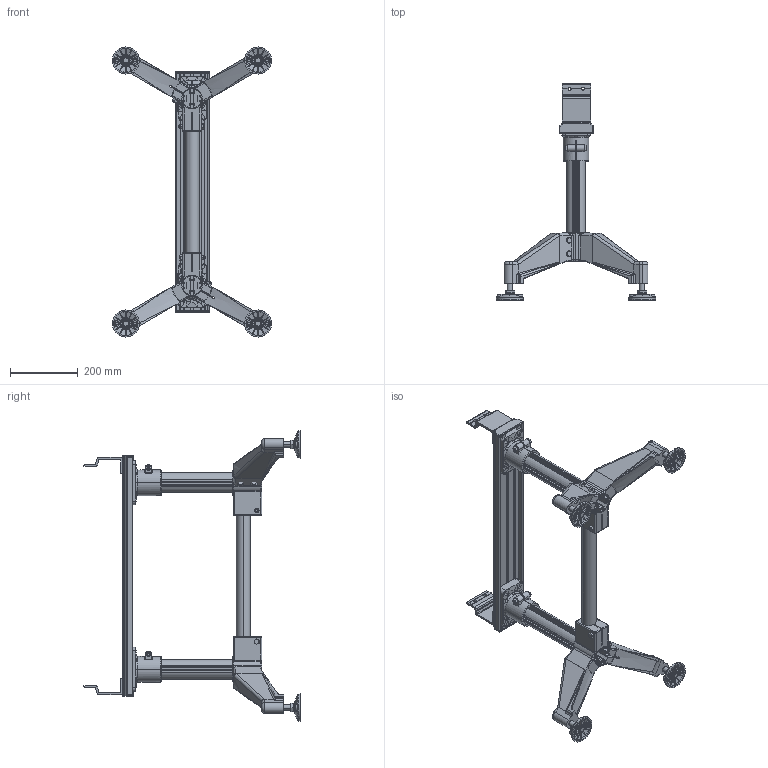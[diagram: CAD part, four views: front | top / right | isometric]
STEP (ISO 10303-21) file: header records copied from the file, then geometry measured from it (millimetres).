
FILE_DESCRIPTION (( 'STEP AP214' ), '1' );
FILE_NAME ('F2-2400-2P2-120.STEP', '2010-03-11T12:33:18', ( '.' ), ( '' ), 'SwSTEP 2.0', 'SolidWorks 2009', '' );
FILE_SCHEMA (( 'AUTOMOTIVE_DESIGN' ));
Length unit declared in the file: millimetre
Products named in the file (1): F2-2400-2P2-120
Bounding box: 470.58 x 637.68 x 856.5 mm (x, y, z)
Surface area: 1314650 mm2 (no closed solid volume)
Topology: 0 solids, 31 shells, 1736 faces, 5628 edges, 3706 vertices
Faces by surface type: plane 701, cylinder 486, bspline 182, cone 164, torus 147, sphere 56
Entity records: 115979 total; most frequent: CARTESIAN_POINT 50741, ORIENTED_EDGE 9496, DIRECTION 9090, EDGE_CURVE 5620, VERTEX_POINT 3706, AXIS2_PLACEMENT_3D 3405, LINE 2280, VECTOR 2280
